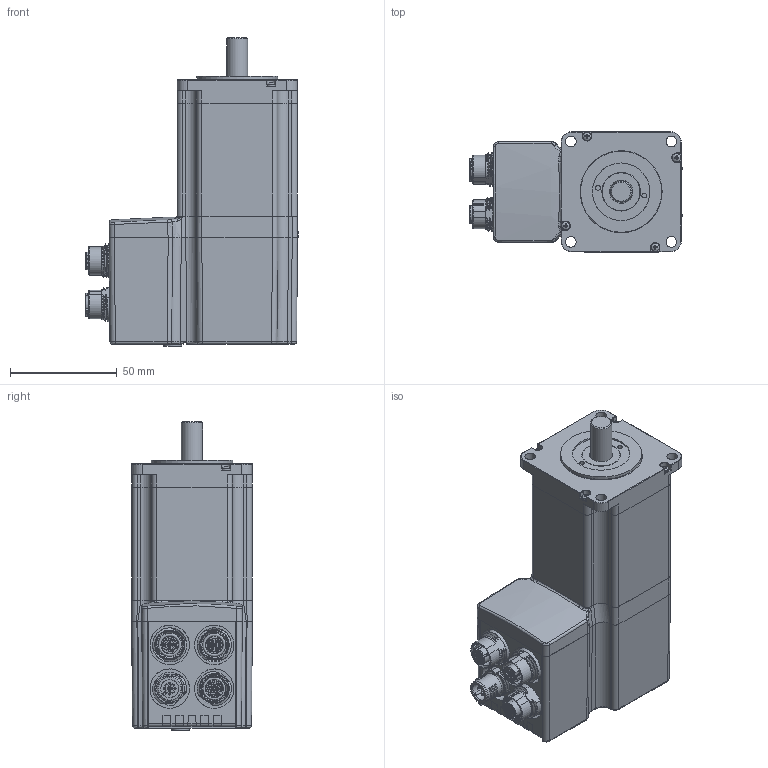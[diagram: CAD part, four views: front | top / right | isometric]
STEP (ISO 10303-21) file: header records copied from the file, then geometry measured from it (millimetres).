
FILE_DESCRIPTION (( 'STEP AP203' ), '1' );
FILE_NAME ('MIS232.STEP', '2017-02-20T07:22:35', ( '' ), ( '' ), 'SwSTEP 2.0', 'SolidWorks 2016', '' );
FILE_SCHEMA (( 'CONFIG_CONTROL_DESIGN' ));
Length unit declared in the file: millimetre
Products named in the file (13): Motor_MIS23X_S; MIS232; Motor_end_cover_MIS23X_R3_S; Housing_MIS23X_Top_R8_S; M12_5P_MALE; M12_17P_FEMALE; M12_4P_FEMALE; Shaft_MIS23X_S; ISO_7045-M2x3-Z-3N_ISO 7045 - M2 x 3 - Z - 3N; Stator_MIS23X; Lock_nut_S; Front_Cap_MIS23X_S; Sealing_S
Assembly tree (16 placements, depth 3):
  MIS232
    Motor_MIS23X_S
      Shaft_MIS23X_S
      Stator_MIS23X
      Front_Cap_MIS23X_S
    Motor_end_cover_MIS23X_R3_S
    Housing_MIS23X_Top_R8_S
    M12_5P_MALE
    M12_17P_FEMALE
    M12_4P_FEMALE  x2
    ISO_7045-M2x3-Z-3N_ISO 7045 - M2 x 3 - Z - 3N  x4
    Lock_nut_S
    Sealing_S
Bounding box: 99.82 x 56.67 x 144.7 mm (x, y, z)
Volume: 448165.9 mm3; surface area: 76137 mm2
Topology: 15 solids, 20 shells, 2092 faces, 5345 edges, 3423 vertices
Faces by surface type: plane 904, cylinder 540, bspline 312, torus 163, cone 126, sphere 47
Full cylindrical faces by diameter (mm): 0.217 x3, 0.6 x17, 1 x51, 1.1 x17, 1.52 x2, 1.6 x13, 2 x10, 2.2 x2, 2.5 x4, 3.3 x1, 4 x4, 5 x4, 6.755 x1, 7.555 x1, 10 x1, 10.7 x1, 10.9 x1, 11 x1, 11.13 x2, 12 x1, 12.2 x3, 13.25 x1, 14 x1, 14.6 x2, 15.4 x2, 15.6 x2, 16 x2, 18.1 x3, 18.5 x4, 27 x2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
Entity records: 66207 total; most frequent: CARTESIAN_POINT 31180, ORIENTED_EDGE 7016, DIRECTION 6269, EDGE_CURVE 3508, VERTEX_POINT 2389, AXIS2_PLACEMENT_3D 2323, EDGE_LOOP 1989, FACE_OUTER_BOUND 1741
